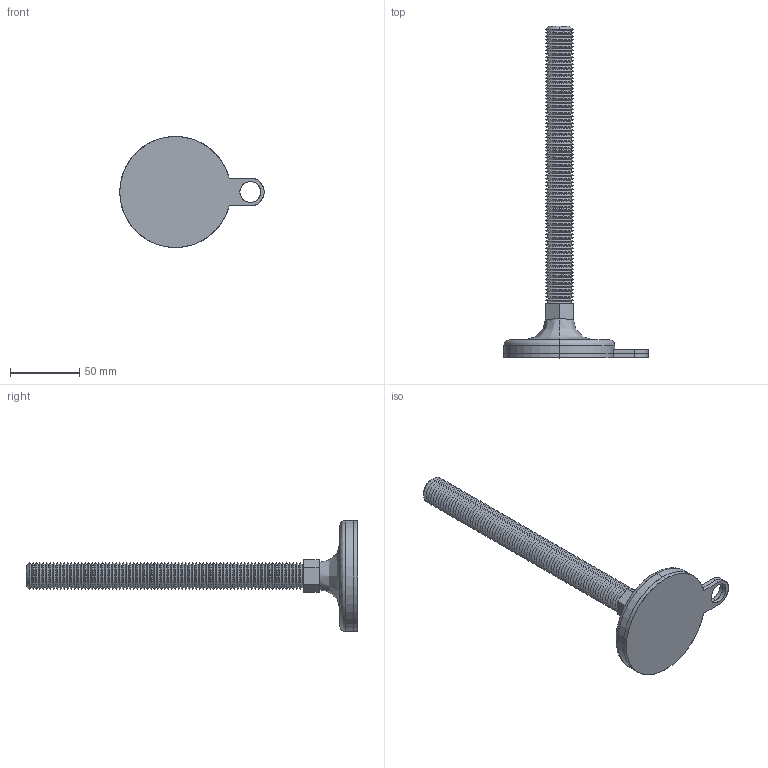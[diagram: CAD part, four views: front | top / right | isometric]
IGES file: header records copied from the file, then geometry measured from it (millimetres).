
Start section: SolidWorks IGES file using analytic representation for surfaces
Global section: file name: C:\Users\liam_\OneDrive\Documents\WORK\Work for WixRoyd\Job Files\J-00026 - Matt Davis CAD - 20191124\04. CAD Drawings\Wixroyd20191124\34704_v2\34704_v2_20191128_IGES\34704.W2003.igs; native system: SolidWorks 2017; preprocessor: SolidWorks 2017; author: liam_; date: 191128.202729; units: millimetre
Bounding box: 104 x 239 x 80 mm (x, y, z)
Surface area: 48196.6 mm2 (no closed solid volume)
Topology: 0 solids, 0 shells, 361 faces, 2076 edges, 2076 vertices
Faces by surface type: revolution 329, bspline 32
